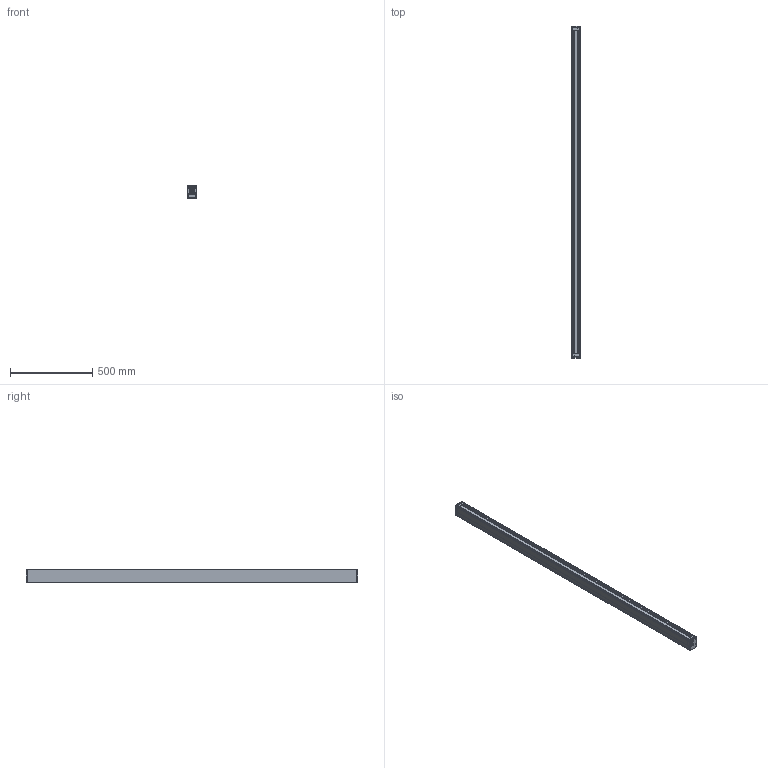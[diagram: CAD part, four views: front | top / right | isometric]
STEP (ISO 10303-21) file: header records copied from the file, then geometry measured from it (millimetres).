
FILE_DESCRIPTION(/* description */ (''),/* implementation_level */ '2;1');
FILE_NAME(/* name */ 'KISSL2~1',/* time_stamp */ '2026-04-27T15:58:48+02:00',/* author */ (''),/* organization */ (''),/* preprocessor_version */ 'ST-DEVELOPER v16.5',/* originating_system */ '',/* authorisation */ '');
FILE_SCHEMA (('AUTOMOTIVE_DESIGN'));
Products named in the file (1): Document
Bounding box: 55 x 2013.48 x 75 mm (x, y, z)
Volume: 839952.5 mm3; surface area: 1699167.5 mm2
Topology: 7 solids, 7 shells, 2006 faces, 5654 edges, 3662 vertices
Faces by surface type: bspline 2006
Entity records: 162350 total; most frequent: CARTESIAN_POINT 91294, B_SPLINE_CURVE_WITH_KNOTS 14838, ORIENTED_EDGE 11284, PCURVE 11284, DEFINITIONAL_REPRESENTATION 11284, SURFACE_CURVE 5642, EDGE_CURVE 5642, VERTEX_POINT 3662
